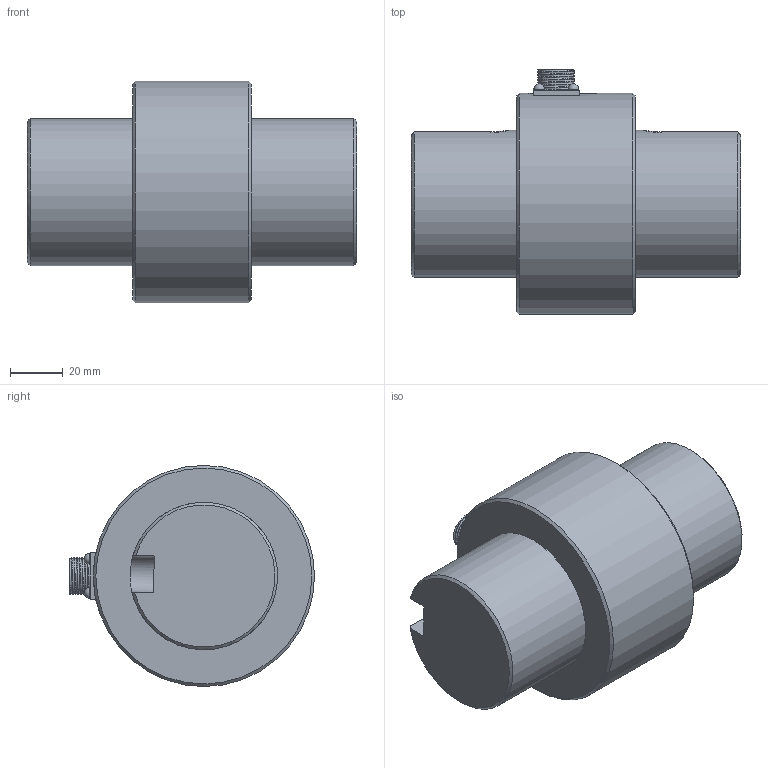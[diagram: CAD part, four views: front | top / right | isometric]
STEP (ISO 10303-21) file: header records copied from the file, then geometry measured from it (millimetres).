
FILE_DESCRIPTION(/* description */ (''),/* implementation_level */ '2;1');
FILE_NAME(/* name */ 'I:/New Datasheets/STEP Models/Pending models/YDNS/YDNS 500-1000Nm.step',/* time_stamp */ '2020-10-08T10:16:19+01:00',/* author */ (''),/* organization */ (''),/* preprocessor_version */ 'ST-DEVELOPER v18.1',/* originating_system */ 'Autodesk Translation Framework v9.3.0.1241',/* authorisation */ '');
FILE_SCHEMA (('AUTOMOTIVE_DESIGN { 1 0 10303 214 3 1 1 }'));
Length unit declared in the file: millimetre
Products named in the file (3): YDNS 500-1000Nm; YDNS 50~100KM Body; YDNS 50~100KM Shaft
Assembly tree (2 placements, depth 2):
  YDNS 500-1000Nm
    YDNS 50~100KM Body
    YDNS 50~100KM Shaft
Bounding box: 125 x 93 x 84 mm (x, y, z)
Volume: 438971.8 mm3; surface area: 54139 mm2
Topology: 2 solids, 2 shells, 43 faces, 106 edges, 69 vertices
Faces by surface type: cylinder 18, plane 16, sphere 4, cone 4, bspline 1
Full cylindrical faces by diameter (mm): 4 x4, 14 x7, 56 x2, 84 x1
Entity records: 3139 total; most frequent: CARTESIAN_POINT 2011, DIRECTION 209, ORIENTED_EDGE 204, EDGE_CURVE 102, AXIS2_PLACEMENT_3D 82, VERTEX_POINT 69, EDGE_LOOP 51, LINE 45
